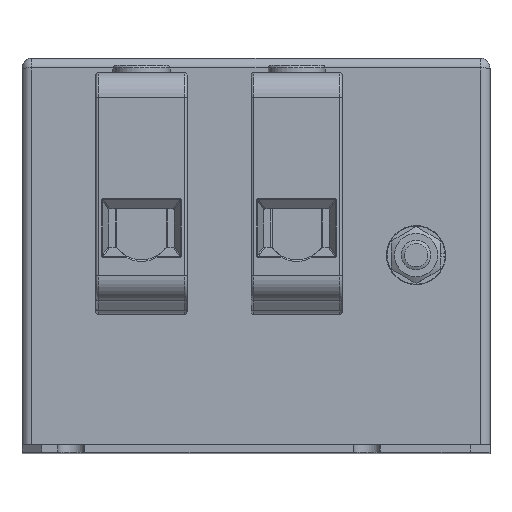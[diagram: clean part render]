
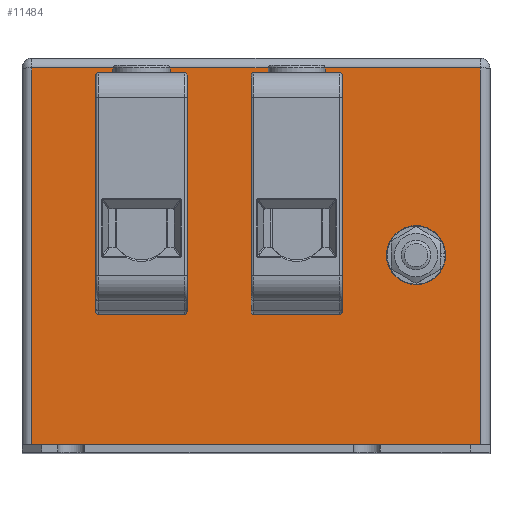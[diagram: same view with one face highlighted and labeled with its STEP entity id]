
A CAD part, top view. The second image highlights one B-rep face of the part: STEP entity #11484.
In plain terms, the highlighted planar face has unit normal (0, 0, 1).
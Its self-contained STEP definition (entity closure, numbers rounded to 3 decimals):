
#129=CARTESIAN_POINT('',(26.975,0.,85.0));
#130=VERTEX_POINT('',#129);
#131=CARTESIAN_POINT('',(32.5,0.,85.0));
#132=DIRECTION('',(0.0,0.0,-1.0));
#133=DIRECTION('',(-1.0,0.0,0.0));
#134=AXIS2_PLACEMENT_3D('',#131,#132,#133);
#135=CIRCLE('',#134,5.525);
#136=EDGE_CURVE('',#130,#130,#135,.T.);
#7587=CARTESIAN_POINT('',(-0.5,-11.5,85.));
#7588=VERTEX_POINT('',#7587);
#7606=CARTESIAN_POINT('',(-0.5,36.5,85.));
#7607=VERTEX_POINT('',#7606);
#7615=CARTESIAN_POINT('',(-0.5,-11.5,85.0));
#7616=DIRECTION('',(0.0,1.0,0.0));
#7617=VECTOR('',#7616,48.);
#7618=LINE('',#7615,#7617);
#7619=EDGE_CURVE('',#7588,#7607,#7618,.T.);
#7901=CARTESIAN_POINT('',(17.,36.5,85.));
#7902=VERTEX_POINT('',#7901);
#7910=CARTESIAN_POINT('',(-0.5,36.5,85.0));
#7911=DIRECTION('',(1.0,0.0,0.0));
#7912=VECTOR('',#7911,17.5);
#7913=LINE('',#7910,#7912);
#7914=EDGE_CURVE('',#7607,#7902,#7913,.T.);
#8224=CARTESIAN_POINT('',(17.,-11.5,85.));
#8225=VERTEX_POINT('',#8224);
#8233=CARTESIAN_POINT('',(17.,36.5,85.0));
#8234=DIRECTION('',(0.0,-1.0,0.0));
#8235=VECTOR('',#8234,48.);
#8236=LINE('',#8233,#8235);
#8237=EDGE_CURVE('',#7902,#8225,#8236,.T.);
#8384=CARTESIAN_POINT('',(-0.5,-11.5,85.0));
#8385=DIRECTION('',(1.0,0.0,0.0));
#8386=VECTOR('',#8385,17.5);
#8387=LINE('',#8384,#8386);
#8388=EDGE_CURVE('',#7588,#8225,#8387,.T.);
#10283=CARTESIAN_POINT('',(-32.,-11.5,85.));
#10284=VERTEX_POINT('',#10283);
#10302=CARTESIAN_POINT('',(-32.,36.5,85.));
#10303=VERTEX_POINT('',#10302);
#10311=CARTESIAN_POINT('',(-32.,-11.5,85.0));
#10312=DIRECTION('',(0.0,1.0,0.0));
#10313=VECTOR('',#10312,48.);
#10314=LINE('',#10311,#10313);
#10315=EDGE_CURVE('',#10284,#10303,#10314,.T.);
#10597=CARTESIAN_POINT('',(-14.5,36.5,85.));
#10598=VERTEX_POINT('',#10597);
#10606=CARTESIAN_POINT('',(-32.,36.5,85.0));
#10607=DIRECTION('',(1.0,0.0,0.0));
#10608=VECTOR('',#10607,17.5);
#10609=LINE('',#10606,#10608);
#10610=EDGE_CURVE('',#10303,#10598,#10609,.T.);
#10920=CARTESIAN_POINT('',(-14.5,-11.5,85.));
#10921=VERTEX_POINT('',#10920);
#10929=CARTESIAN_POINT('',(-14.5,36.5,85.0));
#10930=DIRECTION('',(0.0,-1.0,0.0));
#10931=VECTOR('',#10930,48.);
#10932=LINE('',#10929,#10931);
#10933=EDGE_CURVE('',#10598,#10921,#10932,.T.);
#11080=CARTESIAN_POINT('',(-32.,-11.5,85.0));
#11081=DIRECTION('',(1.0,0.0,0.0));
#11082=VECTOR('',#11081,17.5);
#11083=LINE('',#11080,#11082);
#11084=EDGE_CURVE('',#10284,#10921,#11083,.T.);
#11354=CARTESIAN_POINT('',(-45.5,-38.5,85.0));
#11355=VERTEX_POINT('',#11354);
#11363=CARTESIAN_POINT('',(-45.5,38.,85.0));
#11364=VERTEX_POINT('',#11363);
#11365=CARTESIAN_POINT('',(-45.5,-38.5,85.0));
#11366=DIRECTION('',(0.0,1.0,0.0));
#11367=VECTOR('',#11366,76.5);
#11368=LINE('',#11365,#11367);
#11369=EDGE_CURVE('',#11355,#11364,#11368,.T.);
#11420=CARTESIAN_POINT('',(45.5,38.0,85.0));
#11421=VERTEX_POINT('',#11420);
#11422=CARTESIAN_POINT('',(-45.5,38.,85.0));
#11423=DIRECTION('',(1.0,0.0,0.0));
#11424=VECTOR('',#11423,91.0);
#11425=LINE('',#11422,#11424);
#11426=EDGE_CURVE('',#11364,#11421,#11425,.T.);
#11446=CARTESIAN_POINT('',(0.,0.,85.0));
#11447=DIRECTION('',(0.0,0.0,1.0));
#11448=DIRECTION('',(1.0,0.0,0.0));
#11449=AXIS2_PLACEMENT_3D('',#11446,#11447,#11448);
#11450=PLANE('',#11449);
#11451=ORIENTED_EDGE('',*,*,#11369,.F.);
#11452=CARTESIAN_POINT('',(45.5,-38.5,85.0));
#11453=VERTEX_POINT('',#11452);
#11454=CARTESIAN_POINT('',(-45.5,-38.5,85.0));
#11455=DIRECTION('',(1.0,0.0,0.0));
#11456=VECTOR('',#11455,91.0);
#11457=LINE('',#11454,#11456);
#11458=EDGE_CURVE('',#11355,#11453,#11457,.T.);
#11459=ORIENTED_EDGE('',*,*,#11458,.T.);
#11460=CARTESIAN_POINT('',(45.5,38.0,85.0));
#11461=DIRECTION('',(0.0,-1.0,0.0));
#11462=VECTOR('',#11461,76.5);
#11463=LINE('',#11460,#11462);
#11464=EDGE_CURVE('',#11421,#11453,#11463,.T.);
#11465=ORIENTED_EDGE('',*,*,#11464,.F.);
#11466=ORIENTED_EDGE('',*,*,#11426,.F.);
#11467=EDGE_LOOP('',(#11451,#11459,#11465,#11466));
#11468=FACE_OUTER_BOUND('',#11467,.T.);
#11469=ORIENTED_EDGE('',*,*,#136,.T.);
#11470=EDGE_LOOP('',(#11469));
#11471=FACE_BOUND('',#11470,.T.);
#11472=ORIENTED_EDGE('',*,*,#7619,.T.);
#11473=ORIENTED_EDGE('',*,*,#7914,.T.);
#11474=ORIENTED_EDGE('',*,*,#8237,.T.);
#11475=ORIENTED_EDGE('',*,*,#8388,.F.);
#11476=EDGE_LOOP('',(#11472,#11473,#11474,#11475));
#11477=FACE_BOUND('',#11476,.T.);
#11478=ORIENTED_EDGE('',*,*,#10315,.T.);
#11479=ORIENTED_EDGE('',*,*,#10610,.T.);
#11480=ORIENTED_EDGE('',*,*,#10933,.T.);
#11481=ORIENTED_EDGE('',*,*,#11084,.F.);
#11482=EDGE_LOOP('',(#11478,#11479,#11480,#11481));
#11483=FACE_BOUND('',#11482,.T.);
#11484=ADVANCED_FACE('',(#11468,#11471,#11477,#11483),#11450,.T.);
